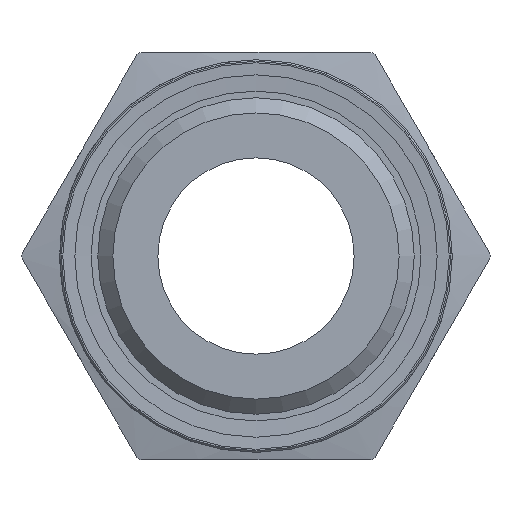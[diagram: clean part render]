
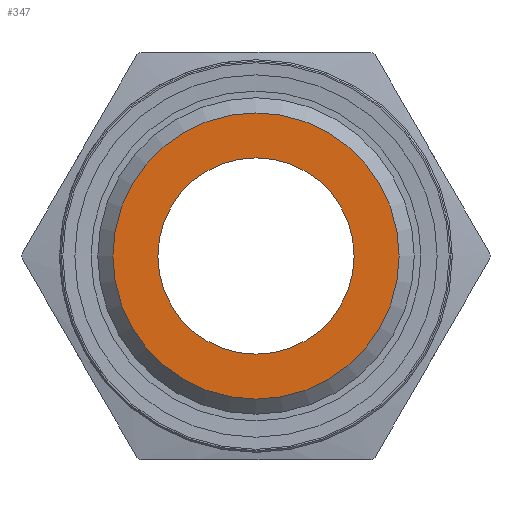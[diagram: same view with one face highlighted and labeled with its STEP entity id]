
A CAD part, left-side view. The second image highlights one B-rep face of the part: STEP entity #347.
In plain terms, the highlighted planar face has unit normal (-1, 0, 0).
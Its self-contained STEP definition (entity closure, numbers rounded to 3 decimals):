
#120=PLANE('',#1308);
#347=ADVANCED_FACE('',(#432,#433),#120,.T.);
#432=FACE_BOUND('',#544,.T.);
#433=FACE_BOUND('',#545,.T.);
#544=EDGE_LOOP('',(#810));
#545=EDGE_LOOP('',(#811));
#810=ORIENTED_EDGE('',*,*,#1104,.F.);
#811=ORIENTED_EDGE('',*,*,#1103,.F.);
#959=VERTEX_POINT('',#2058);
#960=VERTEX_POINT('',#2061);
#1103=EDGE_CURVE('',#959,#959,#1175,.T.);
#1104=EDGE_CURVE('',#960,#960,#1176,.T.);
#1175=CIRCLE('',#1305,9.48);
#1176=CIRCLE('',#1307,6.5);
#1305=AXIS2_PLACEMENT_3D('',#2057,#1605,#1606);
#1307=AXIS2_PLACEMENT_3D('',#2060,#1609,#1610);
#1308=AXIS2_PLACEMENT_3D('',#2062,#1611,#1612);
#1605=DIRECTION('',(1.,0.,0.));
#1606=DIRECTION('',(0.,1.,0.));
#1609=DIRECTION('',(-1.,0.,0.));
#1610=DIRECTION('',(0.,1.,0.));
#1611=DIRECTION('',(-1.,0.,0.));
#1612=DIRECTION('',(0.,-1.,0.));
#2057=CARTESIAN_POINT('',(0.,0.,0.));
#2058=CARTESIAN_POINT('',(0.,9.48,0.));
#2060=CARTESIAN_POINT('',(0.,0.,0.));
#2061=CARTESIAN_POINT('',(0.,6.5,0.));
#2062=CARTESIAN_POINT('',(0.,9.48,0.));
